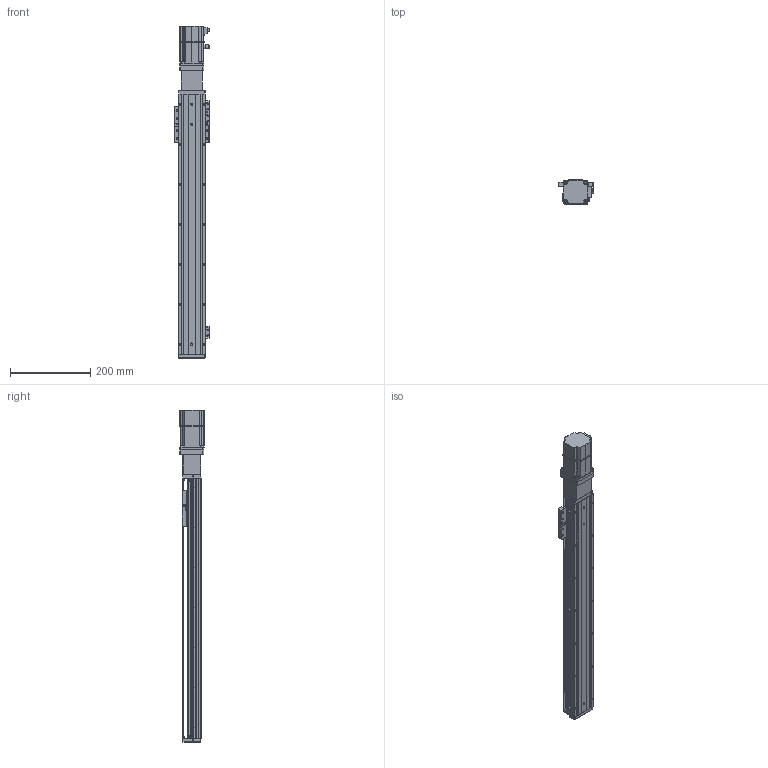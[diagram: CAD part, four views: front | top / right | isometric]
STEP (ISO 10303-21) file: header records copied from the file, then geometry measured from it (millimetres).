
FILE_DESCRIPTION (( 'STEP AP203' ), '1' );
FILE_NAME ('KTHAL60-500-BC-M20-C4L.step', '2022-12-16T01:58:42', ( '微软用户' ), ( '微软中国' ), 'SwSTEP 2.0', 'SolidWorks 2020', '' );
FILE_SCHEMA (( 'CONFIG_CONTROL_DESIGN' ));
Length unit declared in the file: millimetre
Products named in the file (18): CTHA60-017; CTHA60-013; KTHLA60-002; CTHA60-021; CTHA60-006-3_M20B; KTHA60-004; GBT 70.1-M4×16; _X2_4E0983F1_X0_200W_1; KTHA60-005; GBT77-2000M3-3; KTHAL60-500-BC-M20-C4L; GB¨uT 70.2-M3¡Á5_M3¡Á6; GBT 70.1-M3℅6; GBT 70.3-M3℅6; CTHA60-016; EE_SX911P_R; CTHA60-027; KTHA60-001_650
Assembly tree (48 placements, depth 2):
  KTHAL60-500-BC-M20-C4L
    KTHA60-001_650
    KTHLA60-002
    KTHA60-004
    KTHA60-005
    GB¨uT 70.2-M3¡Á5_M3¡Á6  x5
    GBT 70.3-M3℅6  x6
    EE_SX911P_R  x3
    CTHA60-017  x3
    CTHA60-021  x2
    GBT 70.1-M4×16  x8
    GBT77-2000M3-3  x6
    GBT 70.1-M3℅6  x6
    CTHA60-016
    CTHA60-027
    CTHA60-013
    CTHA60-006-3_M20B
    _X2_4E0983F1_X0_200W_1
Bounding box: 87.82 x 62.42 x 829.7 mm (x, y, z)
Volume: 1669716.9 mm3; surface area: 393126.7 mm2
Topology: 51 solids, 51 shells, 2306 faces, 5467 edges, 3349 vertices
Faces by surface type: plane 1249, cylinder 603, cone 293, torus 78, bspline 69, sphere 14
Entity records: 41773 total; most frequent: CARTESIAN_POINT 8054, DIRECTION 6568, ORIENTED_EDGE 6330, EDGE_CURVE 3165, AXIS2_PLACEMENT_3D 2255, VECTOR 2058, LINE 2058, VERTEX_POINT 1971
